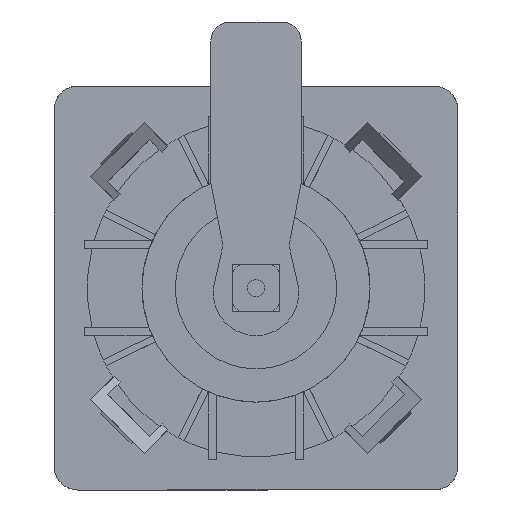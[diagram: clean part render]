
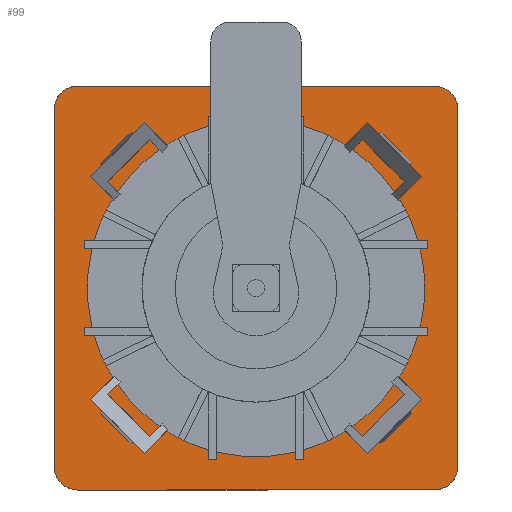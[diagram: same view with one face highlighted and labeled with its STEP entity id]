
A CAD part, front view. The second image highlights one B-rep face of the part: STEP entity #99.
In plain terms, the highlighted planar face has unit normal (0, -1, 0) as drawn and (0, 0, 1) by its records, which use the part's own axes.
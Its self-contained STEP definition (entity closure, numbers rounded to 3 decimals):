
#40 = ORIENTED_EDGE ( 'NONE', *, *, #114, .F. ) ;
#74 = ORIENTED_EDGE ( 'NONE', *, *, #82, .F. ) ;
#75 = VERTEX_POINT ( 'NONE', #8142 ) ;
#82 = EDGE_CURVE ( 'NONE', #75, #112, #8184, .T. ) ;
#96 = ORIENTED_EDGE ( 'NONE', *, *, #107, .T. ) ;
#97 = EDGE_CURVE ( 'NONE', #10204, #110, #8172, .T. ) ;
#98 = ORIENTED_EDGE ( 'NONE', *, *, #97, .T. ) ;
#99 = ADVANCED_FACE ( 'NONE', ( #8212, #8204 ), #8209, .T. ) ;
#101 = ORIENTED_EDGE ( 'NONE', *, *, #10223, .F. ) ;
#103 = VERTEX_POINT ( 'NONE', #8199 ) ;
#104 = VERTEX_POINT ( 'NONE', #8237 ) ;
#105 = ORIENTED_EDGE ( 'NONE', *, *, #10222, .F. ) ;
#106 = ORIENTED_EDGE ( 'NONE', *, *, #10220, .T. ) ;
#107 = EDGE_CURVE ( 'NONE', #103, #104, #8234, .T. ) ;
#108 = ORIENTED_EDGE ( 'NONE', *, *, #109, .F. ) ;
#109 = EDGE_CURVE ( 'NONE', #10208, #110, #8236, .T. ) ;
#110 = VERTEX_POINT ( 'NONE', #8229 ) ;
#111 = EDGE_CURVE ( 'NONE', #10204, #104, #8221, .T. ) ;
#112 = VERTEX_POINT ( 'NONE', #8223 ) ;
#114 = EDGE_CURVE ( 'NONE', #112, #75, #8215, .T. ) ;
#4430 = CARTESIAN_POINT ( 'NONE',  ( 42.5, 37.5, 3.3 ) ) ;
#4432 = CARTESIAN_POINT ( 'NONE',  ( -37.5, -42.5, 3.3 ) ) ;
#4446 = CARTESIAN_POINT ( 'NONE',  ( 37.5, 42.5, 3.3 ) ) ;
#4463 = DIRECTION ( 'NONE',  ( 0., 0., -1. ) ) ;
#4464 = DIRECTION ( 'NONE',  ( -1., 0., 0. ) ) ;
#4465 = DIRECTION ( 'NONE',  ( 0., 0., -1. ) ) ;
#4466 = CARTESIAN_POINT ( 'NONE',  ( -37.5, 37.5, 3.3 ) ) ;
#4467 = CARTESIAN_POINT ( 'NONE',  ( 37.5, 37.5, 3.3 ) ) ;
#4468 = CARTESIAN_POINT ( 'NONE',  ( -37.5, 42.5, 3.3 ) ) ;
#4469 = CIRCLE ( 'NONE', #4479, 5. ) ;
#4470 = DIRECTION ( 'NONE',  ( -1., 0., 0. ) ) ;
#4471 = CIRCLE ( 'NONE', #4492, 5. ) ;
#4472 = DIRECTION ( 'NONE',  ( 0., 1., 0. ) ) ;
#4473 = VECTOR ( 'NONE', #4472, 1000. ) ;
#4474 = CARTESIAN_POINT ( 'NONE',  ( 42.5, 42.5, 3.3 ) ) ;
#4475 = LINE ( 'NONE', #4474, #4473 ) ;
#4476 = VECTOR ( 'NONE', #4470, 1000. ) ;
#4477 = CARTESIAN_POINT ( 'NONE',  ( -42.5, 42.5, 3.3 ) ) ;
#4478 = LINE ( 'NONE', #4477, #4476 ) ;
#4479 = AXIS2_PLACEMENT_3D ( 'NONE', #4467, #4463, #4522 ) ;
#4482 = CARTESIAN_POINT ( 'NONE',  ( 42.5, -37.5, 3.3 ) ) ;
#4492 = AXIS2_PLACEMENT_3D ( 'NONE', #4466, #4465, #4464 ) ;
#4522 = DIRECTION ( 'NONE',  ( -1., 0., 0. ) ) ;
#8122 = CARTESIAN_POINT ( 'NONE',  ( 0., 0., 3.3 ) ) ;
#8142 = CARTESIAN_POINT ( 'NONE',  ( 33.5, 0., 3.3 ) ) ;
#8170 = DIRECTION ( 'NONE',  ( 0., 0., 1. ) ) ;
#8171 = CARTESIAN_POINT ( 'NONE',  ( -42.5, -42.5, 3.3 ) ) ;
#8172 = LINE ( 'NONE', #8171, #8206 ) ;
#8175 = CARTESIAN_POINT ( 'NONE',  ( -42.5, 42.5, 3.3 ) ) ;
#8178 = DIRECTION ( 'NONE',  ( -1., 0., 0. ) ) ;
#8179 = DIRECTION ( 'NONE',  ( 0., 0., 1. ) ) ;
#8180 = AXIS2_PLACEMENT_3D ( 'NONE', #8122, #8179, #8178 ) ;
#8184 = CIRCLE ( 'NONE', #8180, 33.5 ) ;
#8195 = DIRECTION ( 'NONE',  ( 1., 0., 0. ) ) ;
#8196 = AXIS2_PLACEMENT_3D ( 'NONE', #8227, #8226, #8225 ) ;
#8199 = CARTESIAN_POINT ( 'NONE',  ( -42.5, 37.5, 3.3 ) ) ;
#8204 = FACE_BOUND ( 'NONE', #10199, .T. ) ;
#8205 = DIRECTION ( 'NONE',  ( 1., 0., 0. ) ) ;
#8206 = VECTOR ( 'NONE', #8205, 1000. ) ;
#8209 = PLANE ( 'NONE',  #8214 ) ;
#8212 = FACE_OUTER_BOUND ( 'NONE', #10203, .T. ) ;
#8214 = AXIS2_PLACEMENT_3D ( 'NONE', #8175, #8170, #8195 ) ;
#8215 = CIRCLE ( 'NONE', #8218, 33.5 ) ;
#8218 = AXIS2_PLACEMENT_3D ( 'NONE', #8222, #8268, #8267 ) ;
#8219 = DIRECTION ( 'NONE',  ( -1., 0., 0. ) ) ;
#8220 = AXIS2_PLACEMENT_3D ( 'NONE', #8230, #8238, #8219 ) ;
#8221 = CIRCLE ( 'NONE', #8220, 5. ) ;
#8222 = CARTESIAN_POINT ( 'NONE',  ( 0., 0., 3.3 ) ) ;
#8223 = CARTESIAN_POINT ( 'NONE',  ( -33.5, 0., 3.3 ) ) ;
#8225 = DIRECTION ( 'NONE',  ( -1., 0., 0. ) ) ;
#8226 = DIRECTION ( 'NONE',  ( 0., 0., -1. ) ) ;
#8227 = CARTESIAN_POINT ( 'NONE',  ( 37.5, -37.5, 3.3 ) ) ;
#8229 = CARTESIAN_POINT ( 'NONE',  ( 37.5, -42.5, 3.3 ) ) ;
#8230 = CARTESIAN_POINT ( 'NONE',  ( -37.5, -37.5, 3.3 ) ) ;
#8231 = DIRECTION ( 'NONE',  ( 0., -1., 0. ) ) ;
#8232 = VECTOR ( 'NONE', #8231, 1000. ) ;
#8233 = CARTESIAN_POINT ( 'NONE',  ( -42.5, 42.5, 3.3 ) ) ;
#8234 = LINE ( 'NONE', #8233, #8232 ) ;
#8236 = CIRCLE ( 'NONE', #8196, 5. ) ;
#8237 = CARTESIAN_POINT ( 'NONE',  ( -42.5, -37.5, 3.3 ) ) ;
#8238 = DIRECTION ( 'NONE',  ( 0., 0., -1. ) ) ;
#8267 = DIRECTION ( 'NONE',  ( -1., 0., 0. ) ) ;
#8268 = DIRECTION ( 'NONE',  ( 0., 0., 1. ) ) ;
#10190 = ORIENTED_EDGE ( 'NONE', *, *, #10215, .T. ) ;
#10199 = EDGE_LOOP ( 'NONE', ( #40, #74 ) ) ;
#10203 = EDGE_LOOP ( 'NONE', ( #10190, #101, #106, #105, #96, #10226, #98, #108 ) ) ;
#10204 = VERTEX_POINT ( 'NONE', #4432 ) ;
#10208 = VERTEX_POINT ( 'NONE', #4482 ) ;
#10213 = VERTEX_POINT ( 'NONE', #4430 ) ;
#10215 = EDGE_CURVE ( 'NONE', #10208, #10213, #4475, .T. ) ;
#10220 = EDGE_CURVE ( 'NONE', #10225, #10224, #4478, .T. ) ;
#10222 = EDGE_CURVE ( 'NONE', #103, #10224, #4471, .T. ) ;
#10223 = EDGE_CURVE ( 'NONE', #10225, #10213, #4469, .T. ) ;
#10224 = VERTEX_POINT ( 'NONE', #4468 ) ;
#10225 = VERTEX_POINT ( 'NONE', #4446 ) ;
#10226 = ORIENTED_EDGE ( 'NONE', *, *, #111, .F. ) ;
